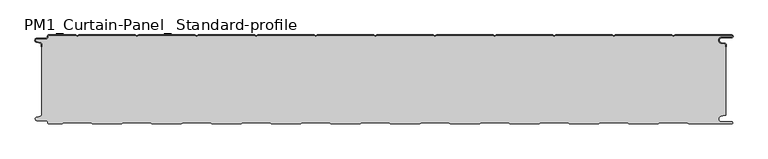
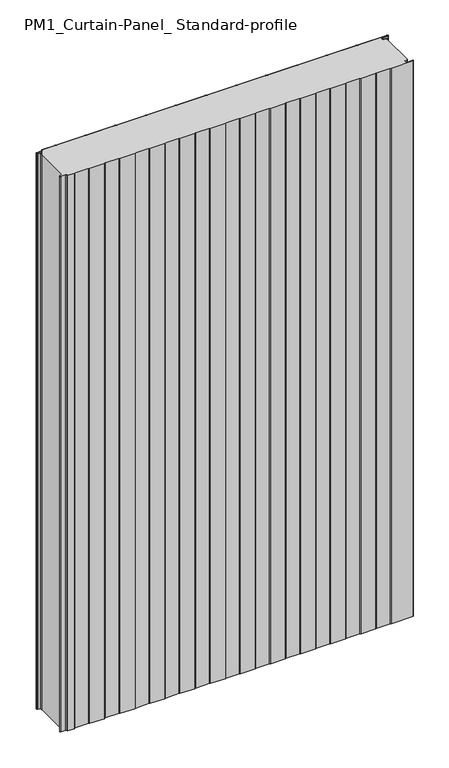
"""IFC4 building model written with IfcOpenShell, lengths in millimetres: plate geometry, PM1_Curtain-Panel_ Standard-profile : ACH_PM1_Acoustic-Sectioning-Panel_150M."""

from ifc_helpers import new_model, si_unit, point, frame, frame_2d, origin, origin_with_axes, place, context, project, spatial, polyline, circle_curve, trimmed, segment, composite_curve, outline, extrude, source, transform, mapped, element, save
from ifc_brep_helpers import plane_surface, cylinder_surface, revolved_surface, advanced_brep


def pm1_curtain_panel_standard_profile_263c61b6(model_context):
    return source(origin(), model_context, "Body", "SolidModel", [
        advanced_brep(
        [(-575.0, -15.878557, 1945.7507136), (-575.0, -20.0, 1945.7507136), (-574.2, -20.0, 1945.7507136), (-574.2, -15.878557, 1945.7507136), (-576.370137, -13.1503208, 1945.7507136), (-582.529863, -11.728236, 1945.7507136), (-581.9, -6.2, 1945.7507136), (-566.4, -6.2, 1945.7507136), (-563.6, -3.4, 1945.7507136), (-563.6, -2.0, 1945.7507136), (-562.4, -0.8, 1945.7507136), (-517.3143588, -0.8, 1945.7507136), (-514.4, -2.482606, 1945.7507136), (-511.4856412, -0.8, 1945.7507136), (-417.3143588, -0.8, 1945.7507136), (-414.4, -2.482606, 1945.7507136), (-411.4856412, -0.8, 1945.7507136), (-317.3143588, -0.8, 1945.7507136), (-314.4, -2.482606, 1945.7507136), (-311.4856412, -0.8, 1945.7507136), (-217.3143588, -0.8, 1945.7507136), (-214.4, -2.482606, 1945.7507136), (-211.4856412, -0.8, 1945.7507136), (-117.3143588, -0.8, 1945.7507136), (-114.4, -2.482606, 1945.7507136), (-111.4856412, -0.8, 1945.7507136), (-17.3143588, -0.8, 1945.7507136), (-14.4, -2.482606, 1945.7507136), (-11.4856412, -0.8, 1945.7507136), (82.6856412, -0.8, 1945.7507136), (85.6, -2.482606, 1945.7507136), (88.5143588, -0.8, 1945.7507136), (182.6856412, -0.8, 1945.7507136), (185.6, -2.482606, 1945.7507136), (188.5143588, -0.8, 1945.7507136), (282.6856412, -0.8, 1945.7507136), (285.6, -2.482606, 1945.7507136), (288.5143588, -0.8, 1945.7507136), (382.6856412, -0.8, 1945.7507136), (385.6, -2.482606, 1945.7507136), (388.5143588, -0.8, 1945.7507136), (482.6856412, -0.8, 1945.7507136), (485.6, -2.482606, 1945.7507136), (488.5143588, -0.8, 1945.7507136), (583.1, -0.8, 1945.7507136), (583.1, -4.2, 1945.7507136), (566.1, -4.2, 1945.7507136), (565.2664884, -13.7270771, 1945.7507136), (571.7125669, -14.8636953, 1945.7507136), (573.2, -16.6363492, 1945.7507136), (573.2, -20.0, 1945.7507136), (574.0, -20.0, 1945.7507136), (574.0, -16.6363492, 1945.7507136), (571.8514855, -14.0758491, 1945.7507136), (565.405407, -12.939231, 1945.7507136), (566.1, -5.0, 1945.7507136), (583.1, -5.0, 1945.7507136), (585.6, -2.5, 1945.7507136), (583.1, 0.0, 1945.7507136), (488.2999995, 0.0, 1945.7507136), (485.6, -1.5588455, 1945.7507136), (482.9000005, 0.0, 1945.7507136), (388.2999995, 0.0, 1945.7507136), (385.6, -1.5588455, 1945.7507136), (382.9000005, 0.0, 1945.7507136), (288.2999995, 0.0, 1945.7507136), (285.6, -1.5588455, 1945.7507136), (282.9000005, 0.0, 1945.7507136), (188.2999995, 0.0, 1945.7507136), (185.6, -1.5588455, 1945.7507136), (182.9000005, 0.0, 1945.7507136), (88.2999995, 0.0, 1945.7507136), (85.6, -1.5588455, 1945.7507136), (82.9000005, 0.0, 1945.7507136), (-11.7000005, 0.0, 1945.7507136), (-14.4, -1.5588455, 1945.7507136), (-17.0999995, 0.0, 1945.7507136), (-111.7000005, 0.0, 1945.7507136), (-114.4, -1.5588455, 1945.7507136), (-117.0999995, 0.0, 1945.7507136), (-211.7000005, 0.0, 1945.7507136), (-214.4, -1.5588455, 1945.7507136), (-217.0999995, 0.0, 1945.7507136), (-311.7000005, 0.0, 1945.7507136), (-314.4, -1.5588455, 1945.7507136), (-317.0999995, 0.0, 1945.7507136), (-411.7000005, 0.0, 1945.7507136), (-414.4, -1.5588455, 1945.7507136), (-417.0999995, 0.0, 1945.7507136), (-511.7000005, 0.0, 1945.7507136), (-514.4, -1.5588455, 1945.7507136), (-517.0999995, 0.0, 1945.7507136), (-562.4, 0.0, 1945.7507136), (-564.4, -2.0, 1945.7507136), (-564.4, -3.4, 1945.7507136), (-566.4, -5.4, 1945.7507136), (-581.9, -5.4, 1945.7507136), (-582.7098239, -12.5077322, 1945.7507136), (-576.5500979, -13.929817, 1945.7507136), (-575.0, -15.878557, 0.0), (-576.5500978, -13.9298169, 0.0), (-582.7098239, -12.507732, 0.0), (-581.9, -5.4, 0.0), (-566.4, -5.4, 0.0), (-564.4, -3.4, 0.0), (-564.4, -2.0, 0.0), (-562.4, 0.0, 0.0), (-517.0999995, 0.0, 0.0), (-514.4, -1.5588455, 0.0), (-511.7000005, 0.0, 0.0), (-417.0999995, 0.0, 0.0), (-414.4, -1.5588455, 0.0), (-411.7000005, 0.0, 0.0), (-317.0999995, 0.0, 0.0), (-314.4, -1.5588455, 0.0), (-311.7000005, 0.0, 0.0), (-217.0999995, 0.0, 0.0), (-214.4, -1.5588455, 0.0), (-211.7000005, 0.0, 0.0), (-117.0999995, 0.0, 0.0), (-114.4, -1.5588455, 0.0), (-111.7000005, 0.0, 0.0), (-17.0999995, 0.0, 0.0), (-14.4, -1.5588455, 0.0), (-11.7000005, 0.0, 0.0), (82.9000005, 0.0, 0.0), (85.6, -1.5588455, 0.0), (88.2999995, 0.0, 0.0), (182.9000005, 0.0, 0.0), (185.6, -1.5588455, 0.0), (188.2999995, 0.0, 0.0), (282.9000005, 0.0, 0.0), (285.6, -1.5588455, 0.0), (288.2999995, 0.0, 0.0), (382.9000005, 0.0, 0.0), (385.6, -1.5588455, 0.0), (388.2999995, 0.0, 0.0), (482.9000005, 0.0, 0.0), (485.6, -1.5588455, 0.0), (488.2999995, 0.0, 0.0), (583.1, 0.0, 0.0), (585.6, -2.5, 0.0), (583.1, -5.0, 0.0), (566.1, -5.0, 0.0), (565.405407, -12.939231, 0.0), (571.8514855, -14.0758491, 0.0), (574.0, -16.6363492, 0.0), (574.0, -20.0, 0.0), (573.2, -20.0, 0.0), (573.2, -16.6363492, 0.0), (571.7125669, -14.8636953, 0.0), (565.2664884, -13.7270772, 0.0), (566.1, -4.2, 0.0), (583.1, -4.2, 0.0), (583.1, -0.8, 0.0), (488.5143588, -0.8, 0.0), (485.6, -2.482606, 0.0), (482.6856412, -0.8, 0.0), (388.5143588, -0.8, 0.0), (385.6, -2.482606, 0.0), (382.6856412, -0.8, 0.0), (288.5143588, -0.8, 0.0), (285.6, -2.482606, 0.0), (282.6856412, -0.8, 0.0), (188.5143588, -0.8, 0.0), (185.6, -2.482606, 0.0), (182.6856412, -0.8, 0.0), (88.5143588, -0.8, 0.0), (85.6, -2.482606, 0.0), (82.6856412, -0.8, 0.0), (-11.4856412, -0.8, 0.0), (-14.4, -2.482606, 0.0), (-17.3143588, -0.8, 0.0), (-111.4856412, -0.8, 0.0), (-114.4, -2.482606, 0.0), (-117.3143588, -0.8, 0.0), (-211.4856412, -0.8, 0.0), (-214.4, -2.482606, 0.0), (-217.3143588, -0.8, 0.0), (-311.4856412, -0.8, 0.0), (-314.4, -2.482606, 0.0), (-317.3143588, -0.8, 0.0), (-411.4856412, -0.8, 0.0), (-414.4, -2.482606, 0.0), (-417.3143588, -0.8, 0.0), (-511.4856412, -0.8, 0.0), (-514.4, -2.482606, 0.0), (-517.3143588, -0.8, 0.0), (-562.4, -0.8, 0.0), (-563.6, -2.0, 0.0), (-563.6, -3.4, 0.0), (-566.4, -6.2, 0.0), (-581.9, -6.2, 0.0), (-582.529863, -11.7282362, 0.0), (-576.370137, -13.150321, 0.0), (-574.2, -15.878557, 0.0), (-574.2, -20.0, 0.0), (-575.0, -20.0, 0.0)],
        [
            (0, 1),
            (1, 2),
            (2, 3),
            (3, 4, circle_curve(frame((-577.0, -15.878557, 1945.7507136), z_axis=(0.0, 0.0, 1.0), x_axis=(1.0, 0.0, 0.0)), 2.8)),
            (4, 5),
            (5, 6, circle_curve(frame((-581.9, -9.0, 1945.7507136), z_axis=(0.0, 0.0, -1.0), x_axis=(1.0, 0.0, 0.0)), 2.8)),
            (6, 7),
            (7, 8, circle_curve(frame((-566.4, -3.4, 1945.7507136), z_axis=(0.0, 0.0, 1.0), x_axis=(1.0, 0.0, 0.0)), 2.8)),
            (8, 9),
            (9, 10, circle_curve(frame((-562.4, -2.0, 1945.7507136), z_axis=(0.0, 0.0, -1.0), x_axis=(1.0, 0.0, 0.0)), 1.2)),
            (10, 11),
            (11, 12),
            (12, 13),
            (13, 14),
            (14, 15),
            (15, 16),
            (16, 17),
            (17, 18),
            (18, 19),
            (19, 20),
            (20, 21),
            (21, 22),
            (22, 23),
            (23, 24),
            (24, 25),
            (25, 26),
            (26, 27),
            (27, 28),
            (28, 29),
            (29, 30),
            (30, 31),
            (31, 32),
            (32, 33),
            (33, 34),
            (34, 35),
            (35, 36),
            (36, 37),
            (37, 38),
            (38, 39),
            (39, 40),
            (40, 41),
            (41, 42),
            (42, 43),
            (43, 44),
            (44, 45, circle_curve(frame((583.1, -2.5, 1945.7507136), z_axis=(0.0, 0.0, -1.0), x_axis=(1.0, 0.0, 0.0)), 1.7)),
            (45, 46),
            (46, 47, circle_curve(frame((566.1, -9.0, 1945.7507136), z_axis=(0.0, 0.0, 1.0), x_axis=(1.0, 0.0, 0.0)), 4.8)),
            (47, 48),
            (48, 49, circle_curve(frame((571.4, -16.6363492, 1945.7507136), z_axis=(0.0, 0.0, -1.0), x_axis=(1.0, 0.0, 0.0)), 1.8)),
            (49, 50),
            (50, 51),
            (51, 52),
            (52, 53, circle_curve(frame((571.4, -16.6363492, 1945.7507136), z_axis=(0.0, 0.0, 1.0), x_axis=(1.0, 0.0, 0.0)), 2.6)),
            (53, 54),
            (54, 55, circle_curve(frame((566.1, -9.0, 1945.7507136), z_axis=(0.0, 0.0, -1.0), x_axis=(1.0, 0.0, 0.0)), 4.0)),
            (55, 56),
            (56, 57, circle_curve(frame((583.1, -2.5, 1945.7507136), z_axis=(0.0, 0.0, 1.0), x_axis=(1.0, 0.0, 0.0)), 2.5)),
            (57, 58, circle_curve(frame((583.1, -2.5, 1945.7507136), z_axis=(0.0, 0.0, 1.0), x_axis=(1.0, 0.0, 0.0)), 2.5)),
            (58, 59),
            (59, 60),
            (60, 61),
            (61, 62),
            (62, 63),
            (63, 64),
            (64, 65),
            (65, 66),
            (66, 67),
            (67, 68),
            (68, 69),
            (69, 70),
            (70, 71),
            (71, 72),
            (72, 73),
            (73, 74),
            (74, 75),
            (75, 76),
            (76, 77),
            (77, 78),
            (78, 79),
            (79, 80),
            (80, 81),
            (81, 82),
            (82, 83),
            (83, 84),
            (84, 85),
            (85, 86),
            (86, 87),
            (87, 88),
            (88, 89),
            (89, 90),
            (90, 91),
            (91, 92),
            (92, 93, circle_curve(frame((-562.4, -2.0, 1945.7507136), z_axis=(0.0, 0.0, 1.0), x_axis=(1.0, 0.0, 0.0)), 2.0)),
            (93, 94),
            (94, 95, circle_curve(frame((-566.4, -3.4, 1945.7507136), z_axis=(0.0, 0.0, -1.0), x_axis=(1.0, 0.0, 0.0)), 2.0)),
            (95, 96),
            (96, 97, circle_curve(frame((-581.9, -9.0, 1945.7507136), z_axis=(0.0, 0.0, 1.0), x_axis=(1.0, 0.0, 0.0)), 3.6)),
            (97, 98),
            (98, 0, circle_curve(frame((-577.0, -15.878557, 1945.7507136), z_axis=(0.0, 0.0, -1.0), x_axis=(1.0, 0.0, 0.0)), 2.0)),
            (99, 100, circle_curve(frame((-577.0, -15.878557, 0.0), z_axis=(0.0, 0.0, 1.0), x_axis=(1.0, 0.0, 0.0)), 2.0)),
            (100, 101),
            (101, 102, circle_curve(frame((-581.9, -9.0, 0.0), z_axis=(0.0, 0.0, -1.0), x_axis=(1.0, 0.0, 0.0)), 3.6)),
            (102, 103),
            (103, 104, circle_curve(frame((-566.4, -3.4, 0.0), z_axis=(0.0, 0.0, 1.0), x_axis=(1.0, 0.0, 0.0)), 2.0)),
            (104, 105),
            (105, 106, circle_curve(frame((-562.4, -2.0, 0.0), z_axis=(0.0, 0.0, -1.0), x_axis=(1.0, 0.0, 0.0)), 2.0)),
            (106, 107),
            (107, 108),
            (108, 109),
            (109, 110),
            (110, 111),
            (111, 112),
            (112, 113),
            (113, 114),
            (114, 115),
            (115, 116),
            (116, 117),
            (117, 118),
            (118, 119),
            (119, 120),
            (120, 121),
            (121, 122),
            (122, 123),
            (123, 124),
            (124, 125),
            (125, 126),
            (126, 127),
            (127, 128),
            (128, 129),
            (129, 130),
            (130, 131),
            (131, 132),
            (132, 133),
            (133, 134),
            (134, 135),
            (135, 136),
            (136, 137),
            (137, 138),
            (138, 139),
            (139, 140),
            (140, 141, circle_curve(frame((583.1, -2.5, 0.0), z_axis=(0.0, 0.0, -1.0), x_axis=(1.0, 0.0, 0.0)), 2.5)),
            (141, 142, circle_curve(frame((583.1, -2.5, 0.0), z_axis=(0.0, 0.0, -1.0), x_axis=(1.0, 0.0, 0.0)), 2.5)),
            (142, 143),
            (143, 144, circle_curve(frame((566.1, -9.0, 0.0), z_axis=(0.0, 0.0, 1.0), x_axis=(1.0, 0.0, 0.0)), 4.0)),
            (144, 145),
            (145, 146, circle_curve(frame((571.4, -16.6363492, 0.0), z_axis=(0.0, 0.0, -1.0), x_axis=(1.0, 0.0, 0.0)), 2.6)),
            (146, 147),
            (147, 148),
            (148, 149),
            (149, 150, circle_curve(frame((571.4, -16.6363492, 0.0), z_axis=(0.0, 0.0, 1.0), x_axis=(1.0, 0.0, 0.0)), 1.8)),
            (150, 151),
            (151, 152, circle_curve(frame((566.1, -9.0, 0.0), z_axis=(0.0, 0.0, -1.0), x_axis=(1.0, 0.0, 0.0)), 4.8)),
            (152, 153),
            (153, 154, circle_curve(frame((583.1, -2.5, 0.0), z_axis=(0.0, 0.0, 1.0), x_axis=(1.0, 0.0, 0.0)), 1.7)),
            (154, 155),
            (155, 156),
            (156, 157),
            (157, 158),
            (158, 159),
            (159, 160),
            (160, 161),
            (161, 162),
            (162, 163),
            (163, 164),
            (164, 165),
            (165, 166),
            (166, 167),
            (167, 168),
            (168, 169),
            (169, 170),
            (170, 171),
            (171, 172),
            (172, 173),
            (173, 174),
            (174, 175),
            (175, 176),
            (176, 177),
            (177, 178),
            (178, 179),
            (179, 180),
            (180, 181),
            (181, 182),
            (182, 183),
            (183, 184),
            (184, 185),
            (185, 186),
            (186, 187),
            (187, 188),
            (188, 189, circle_curve(frame((-562.4, -2.0, 0.0), z_axis=(0.0, 0.0, 1.0), x_axis=(1.0, 0.0, 0.0)), 1.2)),
            (189, 190),
            (190, 191, circle_curve(frame((-566.4, -3.4, 0.0), z_axis=(0.0, 0.0, -1.0), x_axis=(1.0, 0.0, 0.0)), 2.8)),
            (191, 192),
            (192, 193, circle_curve(frame((-581.9, -9.0, 0.0), z_axis=(0.0, 0.0, 1.0), x_axis=(1.0, 0.0, 0.0)), 2.8)),
            (193, 194),
            (194, 195, circle_curve(frame((-577.0, -15.878557, 0.0), z_axis=(0.0, 0.0, -1.0), x_axis=(1.0, 0.0, 0.0)), 2.8)),
            (195, 196),
            (196, 197),
            (197, 99),
            (0, 99),
            (197, 1),
            (196, 2),
            (195, 3),
            (194, 4),
            (193, 5),
            (192, 6),
            (191, 7),
            (190, 8),
            (189, 9),
            (188, 10),
            (187, 11),
            (186, 12),
            (185, 13),
            (184, 14),
            (183, 15),
            (182, 16),
            (181, 17),
            (180, 18),
            (179, 19),
            (178, 20),
            (177, 21),
            (176, 22),
            (175, 23),
            (174, 24),
            (173, 25),
            (172, 26),
            (171, 27),
            (170, 28),
            (169, 29),
            (168, 30),
            (167, 31),
            (166, 32),
            (165, 33),
            (164, 34),
            (163, 35),
            (162, 36),
            (161, 37),
            (160, 38),
            (159, 39),
            (158, 40),
            (157, 41),
            (156, 42),
            (155, 43),
            (154, 44),
            (153, 45),
            (152, 46),
            (151, 47),
            (150, 48),
            (149, 49),
            (148, 50),
            (147, 51),
            (146, 52),
            (145, 53),
            (144, 54),
            (143, 55),
            (142, 56),
            (140, 58),
            (139, 59),
            (138, 60),
            (137, 61),
            (136, 62),
            (135, 63),
            (134, 64),
            (133, 65),
            (132, 66),
            (131, 67),
            (130, 68),
            (129, 69),
            (128, 70),
            (127, 71),
            (126, 72),
            (125, 73),
            (124, 74),
            (123, 75),
            (122, 76),
            (121, 77),
            (120, 78),
            (119, 79),
            (118, 80),
            (117, 81),
            (116, 82),
            (115, 83),
            (114, 84),
            (113, 85),
            (112, 86),
            (111, 87),
            (110, 88),
            (109, 89),
            (108, 90),
            (107, 91),
            (106, 92),
            (105, 93),
            (104, 94),
            (103, 95),
            (102, 96),
            (101, 97),
            (100, 98),
        ],
        [
            plane_surface(frame((-575.0, 0.0, 1945.7507136), z_axis=(0.0, 0.0, 1.0), x_axis=(0.0, 1.0, 0.0))),
            plane_surface(frame((-575.0, 0.0, 0.0), z_axis=(0.0, 0.0, -1.0), x_axis=(0.0, 1.0, 0.0))),
            plane_surface(frame((-575.0, -15.878557, 1945.7507136), z_axis=(-1.0, 0.0, 0.0), x_axis=(0.0, 0.0, -1.0))),
            plane_surface(frame((-575.0, -20.0, 1945.7507136), z_axis=(0.0, -1.0, 0.0), x_axis=(0.0, 0.0, -1.0))),
            plane_surface(frame((-574.2, -20.0, 1945.7507136), z_axis=(1.0, 0.0, 0.0), x_axis=(0.0, 0.0, -1.0))),
            cylinder_surface(frame((-577.0, -15.878557, 1945.7507136), z_axis=(0.0, 0.0, 1.0), x_axis=(1.0, 0.0, 0.0)), 2.8),
            plane_surface(frame((-576.370137, -13.150321, 1945.7507136), z_axis=(0.22495108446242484, 0.9743700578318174, 0.0), x_axis=(0.0, 0.0, -1.0))),
            revolved_surface(polyline([(-579.1, -9.0, 0.0), (-579.1, -9.0, 1945.7507136)]), (-581.9, -9.0, 1945.7507136), (0.0, 0.0, -1.0)),
            plane_surface(frame((-581.9, -6.2, 1945.7507136), z_axis=(0.0, -1.0, 0.0), x_axis=(0.0, 0.0, -1.0))),
            cylinder_surface(frame((-566.4, -3.4, 1945.7507136), z_axis=(0.0, 0.0, 1.0), x_axis=(1.0, 0.0, 0.0)), 2.8),
            plane_surface(frame((-563.6, -3.4, 1945.7507136), z_axis=(1.0, 0.0, 0.0), x_axis=(0.0, 0.0, -1.0))),
            revolved_surface(polyline([(-561.1999999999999, -2.0, 0.0), (-561.1999999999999, -2.0, 1945.7507136)]), (-562.4, -2.0, 1945.7507136), (0.0, 0.0, -1.0)),
            plane_surface(frame((-562.4, -0.8, 1945.7507136), z_axis=(0.0, -1.0, 0.0), x_axis=(0.0, 0.0, -1.0))),
            plane_surface(frame((-517.3143588, -0.8, 1945.7507136), z_axis=(-0.5000000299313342, -0.8660253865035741, 0.0), x_axis=(0.0, 0.0, -1.0))),
            plane_surface(frame((-514.4, -2.482606, 1945.7507136), z_axis=(0.5000000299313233, -0.8660253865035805, 0.0), x_axis=(0.0, 0.0, -1.0))),
            plane_surface(frame((-511.4856412, -0.8, 1945.7507136), z_axis=(0.0, -1.0, 0.0), x_axis=(0.0, 0.0, -1.0))),
            plane_surface(frame((-417.3143588, -0.8, 1945.7507136), z_axis=(-0.5000000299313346, -0.8660253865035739, 0.0), x_axis=(0.0, 0.0, -1.0))),
            plane_surface(frame((-414.4, -2.482606, 1945.7507136), z_axis=(0.5000000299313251, -0.8660253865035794, 0.0), x_axis=(0.0, 0.0, -1.0))),
            plane_surface(frame((-411.4856412, -0.8, 1945.7507136), z_axis=(0.0, -1.0, 0.0), x_axis=(0.0, 0.0, -1.0))),
            plane_surface(frame((-317.3143588, -0.8, 1945.7507136), z_axis=(-0.5000000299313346, -0.866025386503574, 0.0), x_axis=(0.0, 0.0, -1.0))),
            plane_surface(frame((-314.4, -2.482606, 1945.7507136), z_axis=(0.5000000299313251, -0.8660253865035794, 0.0), x_axis=(0.0, 0.0, -1.0))),
            plane_surface(frame((-311.4856412, -0.8, 1945.7507136), z_axis=(0.0, -1.0, 0.0), x_axis=(0.0, 0.0, -1.0))),
            plane_surface(frame((-217.3143588, -0.8, 1945.7507136), z_axis=(-0.5000000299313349, -0.8660253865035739, 0.0), x_axis=(0.0, 0.0, -1.0))),
            plane_surface(frame((-214.4, -2.482606, 1945.7507136), z_axis=(0.5000000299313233, -0.8660253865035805, 0.0), x_axis=(0.0, 0.0, -1.0))),
            plane_surface(frame((-211.4856412, -0.8, 1945.7507136), z_axis=(0.0, -1.0, 0.0), x_axis=(0.0, 0.0, -1.0))),
            plane_surface(frame((-117.3143588, -0.8, 1945.7507136), z_axis=(-0.5000000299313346, -0.866025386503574, 0.0), x_axis=(0.0, 0.0, -1.0))),
            plane_surface(frame((-114.4, -2.482606, 1945.7507136), z_axis=(0.5000000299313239, -0.8660253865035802, 0.0), x_axis=(0.0, 0.0, -1.0))),
            plane_surface(frame((-111.4856412, -0.8, 1945.7507136), z_axis=(0.0, -1.0, 0.0), x_axis=(0.0, 0.0, -1.0))),
            plane_surface(frame((-17.3143588, -0.8, 1945.7507136), z_axis=(-0.5000000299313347, -0.8660253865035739, 0.0), x_axis=(0.0, 0.0, -1.0))),
            plane_surface(frame((-14.4, -2.482606, 1945.7507136), z_axis=(0.5000000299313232, -0.8660253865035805, 0.0), x_axis=(0.0, 0.0, -1.0))),
            plane_surface(frame((-11.4856412, -0.8, 1945.7507136), z_axis=(0.0, -1.0, 0.0), x_axis=(0.0, 0.0, -1.0))),
            plane_surface(frame((82.6856412, -0.8, 1945.7507136), z_axis=(-0.5000000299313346, -0.866025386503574, 0.0), x_axis=(0.0, 0.0, -1.0))),
            plane_surface(frame((85.6, -2.482606, 1945.7507136), z_axis=(0.5000000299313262, -0.8660253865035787, 0.0), x_axis=(0.0, 0.0, -1.0))),
            plane_surface(frame((88.5143588, -0.8, 1945.7507136), z_axis=(0.0, -1.0, 0.0), x_axis=(0.0, 0.0, -1.0))),
            plane_surface(frame((182.6856412, -0.8, 1945.7507136), z_axis=(-0.5000000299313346, -0.8660253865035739, 0.0), x_axis=(0.0, 0.0, -1.0))),
            plane_surface(frame((185.6, -2.482606, 1945.7507136), z_axis=(0.5000000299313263, -0.8660253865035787, 0.0), x_axis=(0.0, 0.0, -1.0))),
            plane_surface(frame((188.5143588, -0.8, 1945.7507136), z_axis=(0.0, -1.0, 0.0), x_axis=(0.0, 0.0, -1.0))),
            plane_surface(frame((282.6856412, -0.8, 1945.7507136), z_axis=(-0.5000000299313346, -0.8660253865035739, 0.0), x_axis=(0.0, 0.0, -1.0))),
            plane_surface(frame((285.6, -2.482606, 1945.7507136), z_axis=(0.5000000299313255, -0.8660253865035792, 0.0), x_axis=(0.0, 0.0, -1.0))),
            plane_surface(frame((288.5143588, -0.8, 1945.7507136), z_axis=(0.0, -1.0, 0.0), x_axis=(0.0, 0.0, -1.0))),
            plane_surface(frame((382.6856412, -0.8, 1945.7507136), z_axis=(-0.5000000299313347, -0.8660253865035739, 0.0), x_axis=(0.0, 0.0, -1.0))),
            plane_surface(frame((385.6, -2.482606, 1945.7507136), z_axis=(0.5000000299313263, -0.8660253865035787, 0.0), x_axis=(0.0, 0.0, -1.0))),
            plane_surface(frame((388.5143588, -0.8, 1945.7507136), z_axis=(0.0, -1.0, 0.0), x_axis=(0.0, 0.0, -1.0))),
            plane_surface(frame((482.6856412, -0.8, 1945.7507136), z_axis=(-0.5000000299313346, -0.866025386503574, 0.0), x_axis=(0.0, 0.0, -1.0))),
            plane_surface(frame((485.6, -2.482606, 1945.7507136), z_axis=(0.5000000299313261, -0.8660253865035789, 0.0), x_axis=(0.0, 0.0, -1.0))),
            plane_surface(frame((535.6, -0.8, 1945.7507136), z_axis=(0.0, -1.0, 0.0), x_axis=(0.0, 0.0, -1.0))),
            revolved_surface(polyline([(584.8000000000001, -2.5, 0.0), (584.8000000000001, -2.5, 1945.7507136)]), (583.1, -2.5, 1945.7507136), (0.0, 0.0, -1.0)),
            plane_surface(frame((583.1, -4.2, 1945.7507136), z_axis=(0.0, 1.0, 0.0), x_axis=(0.0, 0.0, -1.0))),
            cylinder_surface(frame((566.1, -9.0, 1945.7507136), z_axis=(0.0, 0.0, 1.0), x_axis=(1.0, 0.0, 0.0)), 4.8),
            plane_surface(frame((565.2664884, -13.7270772, 1945.7507136), z_axis=(-0.17364825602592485, -0.9848077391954, 0.0), x_axis=(0.0, 0.0, -1.0))),
            revolved_surface(polyline([(573.1999999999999, -16.6363492, 0.0), (573.1999999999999, -16.6363492, 1945.7507136)]), (571.4, -16.6363492, 1945.7507136), (0.0, 0.0, -1.0)),
            plane_surface(frame((573.2, -16.6363492, 1945.7507136), z_axis=(-1.0, 0.0, 0.0), x_axis=(0.0, 0.0, -1.0))),
            plane_surface(frame((573.2, -20.0, 1945.7507136), z_axis=(0.0, -1.0, 0.0), x_axis=(0.0, 0.0, -1.0))),
            plane_surface(frame((574.0, -20.0, 1945.7507136), z_axis=(1.0, 0.0, 0.0), x_axis=(0.0, 0.0, -1.0))),
            cylinder_surface(frame((571.4, -16.6363492, 1945.7507136), z_axis=(0.0, 0.0, 1.0), x_axis=(1.0, 0.0, 0.0)), 2.6),
            plane_surface(frame((571.8514855, -14.0758491, 1945.7507136), z_axis=(0.1736482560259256, 0.9848077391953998, 0.0), x_axis=(0.0, 0.0, -1.0))),
            revolved_surface(polyline([(570.1, -9.0, 0.0), (570.1, -9.0, 1945.7507136)]), (566.1, -9.0, 1945.7507136), (0.0, 0.0, -1.0)),
            plane_surface(frame((566.1, -5.0, 1945.7507136), z_axis=(0.0, -1.0, 0.0), x_axis=(0.0, 0.0, -1.0))),
            cylinder_surface(frame((583.1, -2.5, 1945.7507136), z_axis=(0.0, 0.0, 1.0), x_axis=(1.0, 0.0, 0.0)), 2.5),
            plane_surface(frame((535.6, 0.0, 1945.7507136), z_axis=(0.0, 1.0, 0.0), x_axis=(0.0, 0.0, -1.0))),
            plane_surface(frame((488.2999995, 0.0, 1945.7507136), z_axis=(-0.5000000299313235, 0.8660253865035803, 0.0), x_axis=(0.0, 0.0, -1.0))),
            plane_surface(frame((485.6, -1.5588455, 1945.7507136), z_axis=(0.5000000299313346, 0.8660253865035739, 0.0), x_axis=(0.0, 0.0, -1.0))),
            plane_surface(frame((482.9000005, 0.0, 1945.7507136), z_axis=(0.0, 1.0, 0.0), x_axis=(0.0, 0.0, -1.0))),
            plane_surface(frame((388.2999995, 0.0, 1945.7507136), z_axis=(-0.5000000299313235, 0.8660253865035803, 0.0), x_axis=(0.0, 0.0, -1.0))),
            plane_surface(frame((385.6, -1.5588455, 1945.7507136), z_axis=(0.5000000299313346, 0.8660253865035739, 0.0), x_axis=(0.0, 0.0, -1.0))),
            plane_surface(frame((382.9000005, 0.0, 1945.7507136), z_axis=(0.0, 1.0, 0.0), x_axis=(0.0, 0.0, -1.0))),
            plane_surface(frame((288.2999995, 0.0, 1945.7507136), z_axis=(-0.5000000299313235, 0.8660253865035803, 0.0), x_axis=(0.0, 0.0, -1.0))),
            plane_surface(frame((285.6, -1.5588455, 1945.7507136), z_axis=(0.5000000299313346, 0.8660253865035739, 0.0), x_axis=(0.0, 0.0, -1.0))),
            plane_surface(frame((282.9000005, 0.0, 1945.7507136), z_axis=(0.0, 1.0, 0.0), x_axis=(0.0, 0.0, -1.0))),
            plane_surface(frame((188.2999995, 0.0, 1945.7507136), z_axis=(-0.5000000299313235, 0.8660253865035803, 0.0), x_axis=(0.0, 0.0, -1.0))),
            plane_surface(frame((185.6, -1.5588455, 1945.7507136), z_axis=(0.5000000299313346, 0.8660253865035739, 0.0), x_axis=(0.0, 0.0, -1.0))),
            plane_surface(frame((182.9000005, 0.0, 1945.7507136), z_axis=(0.0, 1.0, 0.0), x_axis=(0.0, 0.0, -1.0))),
            plane_surface(frame((88.2999995, 0.0, 1945.7507136), z_axis=(-0.5000000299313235, 0.8660253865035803, 0.0), x_axis=(0.0, 0.0, -1.0))),
            plane_surface(frame((85.6, -1.5588455, 1945.7507136), z_axis=(0.5000000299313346, 0.8660253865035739, 0.0), x_axis=(0.0, 0.0, -1.0))),
            plane_surface(frame((82.9000005, 0.0, 1945.7507136), z_axis=(0.0, 1.0, 0.0), x_axis=(0.0, 0.0, -1.0))),
            plane_surface(frame((-11.7000005, 0.0, 1945.7507136), z_axis=(-0.5000000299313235, 0.8660253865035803, 0.0), x_axis=(0.0, 0.0, -1.0))),
            plane_surface(frame((-14.4, -1.5588455, 1945.7507136), z_axis=(0.5000000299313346, 0.8660253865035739, 0.0), x_axis=(0.0, 0.0, -1.0))),
            plane_surface(frame((-17.0999995, 0.0, 1945.7507136), z_axis=(0.0, 1.0, 0.0), x_axis=(0.0, 0.0, -1.0))),
            plane_surface(frame((-111.7000005, 0.0, 1945.7507136), z_axis=(-0.5000000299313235, 0.8660253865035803, 0.0), x_axis=(0.0, 0.0, -1.0))),
            plane_surface(frame((-114.4, -1.5588455, 1945.7507136), z_axis=(0.5000000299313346, 0.8660253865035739, 0.0), x_axis=(0.0, 0.0, -1.0))),
            plane_surface(frame((-117.0999995, 0.0, 1945.7507136), z_axis=(0.0, 1.0, 0.0), x_axis=(0.0, 0.0, -1.0))),
            plane_surface(frame((-211.7000005, 0.0, 1945.7507136), z_axis=(-0.5000000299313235, 0.8660253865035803, 0.0), x_axis=(0.0, 0.0, -1.0))),
            plane_surface(frame((-214.4, -1.5588455, 1945.7507136), z_axis=(0.5000000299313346, 0.8660253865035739, 0.0), x_axis=(0.0, 0.0, -1.0))),
            plane_surface(frame((-217.0999995, 0.0, 1945.7507136), z_axis=(0.0, 1.0, 0.0), x_axis=(0.0, 0.0, -1.0))),
            plane_surface(frame((-311.7000005, 0.0, 1945.7507136), z_axis=(-0.5000000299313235, 0.8660253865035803, 0.0), x_axis=(0.0, 0.0, -1.0))),
            plane_surface(frame((-314.4, -1.5588455, 1945.7507136), z_axis=(0.5000000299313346, 0.8660253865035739, 0.0), x_axis=(0.0, 0.0, -1.0))),
            plane_surface(frame((-317.0999995, 0.0, 1945.7507136), z_axis=(0.0, 1.0, 0.0), x_axis=(0.0, 0.0, -1.0))),
            plane_surface(frame((-411.7000005, 0.0, 1945.7507136), z_axis=(-0.5000000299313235, 0.8660253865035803, 0.0), x_axis=(0.0, 0.0, -1.0))),
            plane_surface(frame((-414.4, -1.5588455, 1945.7507136), z_axis=(0.5000000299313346, 0.8660253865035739, 0.0), x_axis=(0.0, 0.0, -1.0))),
            plane_surface(frame((-417.0999995, 0.0, 1945.7507136), z_axis=(0.0, 1.0, 0.0), x_axis=(0.0, 0.0, -1.0))),
            plane_surface(frame((-511.7000005, 0.0, 1945.7507136), z_axis=(-0.5000000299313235, 0.8660253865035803, 0.0), x_axis=(0.0, 0.0, -1.0))),
            plane_surface(frame((-514.4, -1.5588455, 1945.7507136), z_axis=(0.5000000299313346, 0.8660253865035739, 0.0), x_axis=(0.0, 0.0, -1.0))),
            plane_surface(frame((-517.0999995, 0.0, 1945.7507136), z_axis=(0.0, 1.0, 0.0), x_axis=(0.0, 0.0, -1.0))),
            cylinder_surface(frame((-562.4, -2.0, 1945.7507136), z_axis=(0.0, 0.0, 1.0), x_axis=(1.0, 0.0, 0.0)), 2.0),
            plane_surface(frame((-564.4, -2.0, 1945.7507136), z_axis=(-1.0, 0.0, 0.0), x_axis=(0.0, 0.0, -1.0))),
            revolved_surface(polyline([(-564.4, -3.4, 0.0), (-564.4, -3.4, 1945.7507136)]), (-566.4, -3.4, 1945.7507136), (0.0, 0.0, -1.0)),
            plane_surface(frame((-566.4, -5.4, 1945.7507136), z_axis=(0.0, 1.0, 0.0), x_axis=(0.0, 0.0, -1.0))),
            cylinder_surface(frame((-581.9, -9.0, 1945.7507136), z_axis=(0.0, 0.0, 1.0), x_axis=(1.0, 0.0, 0.0)), 3.6),
            plane_surface(frame((-582.7098239, -12.507732, 1945.7507136), z_axis=(-0.22495108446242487, -0.9743700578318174, 0.0), x_axis=(0.0, 0.0, -1.0))),
            revolved_surface(polyline([(-575.0, -15.878557, 0.0), (-575.0, -15.878557, 1945.7507136)]), (-577.0, -15.878557, 1945.7507136), (0.0, 0.0, -1.0)),
        ],
        [
            (0, [[1, 2, 3, 4, 5, 6, 7, 8, 9, 10, 11, 12, 13, 14, 15, 16, 17, 18, 19, 20, 21, 22, 23, 24, 25, 26, 27, 28, 29, 30, 31, 32, 33, 34, 35, 36, 37, 38, 39, 40, 41, 42, 43, 44, 45, 46, 47, 48, 49, 50, 51, 52, 53, 54, 55, 56, 57, 58, 59, 60, 61, 62, 63, 64, 65, 66, 67, 68, 69, 70, 71, 72, 73, 74, 75, 76, 77, 78, 79, 80, 81, 82, 83, 84, 85, 86, 87, 88, 89, 90, 91, 92, 93, 94, 95, 96, 97, 98, 99]]),
            (1, [[100, 101, 102, 103, 104, 105, 106, 107, 108, 109, 110, 111, 112, 113, 114, 115, 116, 117, 118, 119, 120, 121, 122, 123, 124, 125, 126, 127, 128, 129, 130, 131, 132, 133, 134, 135, 136, 137, 138, 139, 140, 141, 142, 143, 144, 145, 146, 147, 148, 149, 150, 151, 152, 153, 154, 155, 156, 157, 158, 159, 160, 161, 162, 163, 164, 165, 166, 167, 168, 169, 170, 171, 172, 173, 174, 175, 176, 177, 178, 179, 180, 181, 182, 183, 184, 185, 186, 187, 188, 189, 190, 191, 192, 193, 194, 195, 196, 197, 198]]),
            (2, [[-1, 199, -198, 200]]),
            (3, [[-2, -200, -197, 201]]),
            (4, [[-3, -201, -196, 202]]),
            (5, [[-4, -202, -195, 203]]),
            (6, [[-5, -203, -194, 204]]),
            (7, [[-6, -204, -193, 205]]),
            (8, [[-7, -205, -192, 206]]),
            (9, [[-8, -206, -191, 207]]),
            (10, [[-9, -207, -190, 208]]),
            (11, [[-10, -208, -189, 209]]),
            (12, [[-11, -209, -188, 210]]),
            (13, [[-12, -210, -187, 211]]),
            (14, [[-13, -211, -186, 212]]),
            (15, [[-14, -212, -185, 213]]),
            (16, [[-15, -213, -184, 214]]),
            (17, [[-16, -214, -183, 215]]),
            (18, [[-17, -215, -182, 216]]),
            (19, [[-18, -216, -181, 217]]),
            (20, [[-19, -217, -180, 218]]),
            (21, [[-20, -218, -179, 219]]),
            (22, [[-21, -219, -178, 220]]),
            (23, [[-22, -220, -177, 221]]),
            (24, [[-23, -221, -176, 222]]),
            (25, [[-24, -222, -175, 223]]),
            (26, [[-25, -223, -174, 224]]),
            (27, [[-26, -224, -173, 225]]),
            (28, [[-27, -225, -172, 226]]),
            (29, [[-28, -226, -171, 227]]),
            (30, [[-29, -227, -170, 228]]),
            (31, [[-30, -228, -169, 229]]),
            (32, [[-31, -229, -168, 230]]),
            (33, [[-32, -230, -167, 231]]),
            (34, [[-33, -231, -166, 232]]),
            (35, [[-34, -232, -165, 233]]),
            (36, [[-35, -233, -164, 234]]),
            (37, [[-36, -234, -163, 235]]),
            (38, [[-37, -235, -162, 236]]),
            (39, [[-38, -236, -161, 237]]),
            (40, [[-39, -237, -160, 238]]),
            (41, [[-40, -238, -159, 239]]),
            (42, [[-41, -239, -158, 240]]),
            (43, [[-42, -240, -157, 241]]),
            (44, [[-43, -241, -156, 242]]),
            (45, [[-44, -242, -155, 243]]),
            (46, [[-45, -243, -154, 244]]),
            (47, [[-46, -244, -153, 245]]),
            (48, [[-47, -245, -152, 246]]),
            (49, [[-48, -246, -151, 247]]),
            (50, [[-49, -247, -150, 248]]),
            (51, [[-50, -248, -149, 249]]),
            (52, [[-51, -249, -148, 250]]),
            (53, [[-52, -250, -147, 251]]),
            (54, [[-53, -251, -146, 252]]),
            (55, [[-54, -252, -145, 253]]),
            (56, [[-55, -253, -144, 254]]),
            (57, [[-56, -254, -143, 255]]),
            (58, [[-255, -142, -141, 256, -58, -57]]),
            (59, [[-59, -256, -140, 257]]),
            (60, [[-60, -257, -139, 258]]),
            (61, [[-61, -258, -138, 259]]),
            (62, [[-62, -259, -137, 260]]),
            (63, [[-63, -260, -136, 261]]),
            (64, [[-64, -261, -135, 262]]),
            (65, [[-65, -262, -134, 263]]),
            (66, [[-66, -263, -133, 264]]),
            (67, [[-67, -264, -132, 265]]),
            (68, [[-68, -265, -131, 266]]),
            (69, [[-69, -266, -130, 267]]),
            (70, [[-70, -267, -129, 268]]),
            (71, [[-71, -268, -128, 269]]),
            (72, [[-72, -269, -127, 270]]),
            (73, [[-73, -270, -126, 271]]),
            (74, [[-74, -271, -125, 272]]),
            (75, [[-75, -272, -124, 273]]),
            (76, [[-76, -273, -123, 274]]),
            (77, [[-77, -274, -122, 275]]),
            (78, [[-78, -275, -121, 276]]),
            (79, [[-79, -276, -120, 277]]),
            (80, [[-80, -277, -119, 278]]),
            (81, [[-81, -278, -118, 279]]),
            (82, [[-82, -279, -117, 280]]),
            (83, [[-83, -280, -116, 281]]),
            (84, [[-84, -281, -115, 282]]),
            (85, [[-85, -282, -114, 283]]),
            (86, [[-86, -283, -113, 284]]),
            (87, [[-87, -284, -112, 285]]),
            (88, [[-88, -285, -111, 286]]),
            (89, [[-89, -286, -110, 287]]),
            (90, [[-90, -287, -109, 288]]),
            (91, [[-91, -288, -108, 289]]),
            (92, [[-92, -289, -107, 290]]),
            (93, [[-93, -290, -106, 291]]),
            (94, [[-94, -291, -105, 292]]),
            (95, [[-95, -292, -104, 293]]),
            (96, [[-96, -293, -103, 294]]),
            (97, [[-97, -294, -102, 295]]),
            (98, [[-98, -295, -101, 296]]),
            (99, [[-99, -296, -100, -199]]),
        ],
    ),
        extrude(outline(composite_curve([segment(polyline([(-574.2, -134.121443), (-574.2, -15.8785573)]), True, "CONTINUOUS"), segment(trimmed(circle_curve(frame_2d((-577.0, -15.8785573)), 2.8), [point((-574.2, -15.8785573))], [point((-576.370137, -13.1503212))], True, "CARTESIAN"), True, "CONTINUOUS"), segment(polyline([(-576.370137, -13.1503212), (-582.5298631, -11.7282362)]), True, "CONTINUOUS"), segment(trimmed(circle_curve(frame_2d((-581.9, -9.0)), 2.8), [point((-582.5298631, -11.7282362))], [point((-581.9, -6.2))], False, "CARTESIAN"), True, "CONTINUOUS"), segment(polyline([(-581.9, -6.2), (-566.4000001, -6.2)]), True, "CONTINUOUS"), segment(trimmed(circle_curve(frame_2d((-566.4000001, -3.4)), 2.8), [point((-566.4000001, -6.2))], [point((-563.6000001, -3.4))], True, "CARTESIAN"), True, "CONTINUOUS"), segment(polyline([(-563.6000001, -3.4), (-563.6000001, -2.0)]), True, "CONTINUOUS"), segment(trimmed(circle_curve(frame_2d((-562.4000001, -2.0)), 1.2), [point((-563.6000001, -2.0))], [point((-562.4000001, -0.8))], False, "CARTESIAN"), True, "CONTINUOUS"), segment(polyline([(-562.4000001, -0.8), (-517.3143589, -0.8), (-514.4000001, -2.482606), (-511.4856412, -0.8), (-417.3143589, -0.8), (-414.4000001, -2.482606), (-411.4856412, -0.8), (-317.3143589, -0.8), (-314.4000001, -2.482606), (-311.4856412, -0.8), (-217.3143589, -0.8), (-214.4000001, -2.482606), (-211.4856412, -0.8), (-117.3143589, -0.8), (-114.4000001, -2.482606), (-111.4856412, -0.8), (-17.3143589, -0.8), (-14.4000001, -2.482606), (-11.4856412, -0.8), (82.6856411, -0.8), (85.5999999, -2.482606), (88.5143588, -0.8), (182.6856411, -0.8), (185.5999999, -2.482606), (188.5143588, -0.8), (282.6856411, -0.8), (285.5999999, -2.482606), (288.5143588, -0.8), (382.6856411, -0.8), (385.5999999, -2.482606), (388.5143588, -0.8), (482.6856411, -0.8), (485.6, -2.482606), (488.5143588, -0.8), (583.1, -0.8)]), True, "CONTINUOUS"), segment(trimmed(circle_curve(frame_2d((583.1, -2.5)), 1.7), [point((583.1, -0.8))], [point((583.1, -4.2))], False, "CARTESIAN"), True, "CONTINUOUS"), segment(polyline([(583.1, -4.2), (566.1, -4.2)]), True, "CONTINUOUS"), segment(trimmed(circle_curve(frame_2d((566.1, -9.0)), 4.8), [point((566.1, -4.2))], [point((565.2664883, -13.7270771))], True, "CARTESIAN"), True, "CONTINUOUS"), segment(polyline([(565.2664883, -13.7270771), (571.7125668, -14.8636953)]), True, "CONTINUOUS"), segment(trimmed(circle_curve(frame_2d((571.4, -16.6363492)), 1.8), [point((571.7125668, -14.8636953))], [point((573.2, -16.6363492))], False, "CARTESIAN"), True, "CONTINUOUS"), segment(polyline([(573.2, -16.6363492), (573.2, -133.363652)]), True, "CONTINUOUS"), segment(trimmed(circle_curve(frame_2d((571.4, -133.363652)), 1.8), [point((573.2, -133.363652))], [point((571.7125666, -135.1363059))], False, "CARTESIAN"), True, "CONTINUOUS"), segment(polyline([(571.7125666, -135.1363059), (565.266489, -136.272923)]), True, "CONTINUOUS"), segment(trimmed(circle_curve(frame_2d((566.1, -141.0000002)), 4.7999999), [point((565.266489, -136.272923))], [point((566.1, -145.8000001))], True, "CARTESIAN"), True, "CONTINUOUS"), segment(polyline([(566.1, -145.8000001), (583.1, -145.8000001)]), True, "CONTINUOUS"), segment(trimmed(circle_curve(frame_2d((583.1, -147.5)), 1.7), [point((583.1, -145.8000001))], [point((583.1, -149.2))], False, "CARTESIAN"), True, "CONTINUOUS"), segment(polyline([(583.1, -149.2), (510.8105122, -149.2), (508.2124346, -147.7), (462.9837184, -147.7), (460.3856408, -149.2), (410.8105122, -149.2), (408.2124346, -147.7), (362.9837184, -147.7), (360.3856408, -149.2), (310.8105122, -149.2), (308.2124346, -147.7), (262.9837184, -147.7), (260.3856408, -149.2), (210.8105122, -149.2), (208.2124346, -147.7), (162.9837184, -147.7), (160.3856408, -149.2), (110.8105122, -149.2), (108.2124346, -147.7), (62.9837184, -147.7), (60.3856408, -149.2), (10.8105122, -149.2), (8.2124346, -147.7), (-37.0162816, -147.7), (-39.6143592, -149.2), (-89.1894878, -149.2), (-91.7875654, -147.7), (-137.0162816, -147.7), (-139.6143592, -149.2), (-189.1894878, -149.2), (-191.7875654, -147.7), (-237.0162816, -147.7), (-239.6143592, -149.2), (-289.1894878, -149.2), (-291.7875654, -147.7), (-337.0162816, -147.7), (-339.6143592, -149.2), (-389.1894878, -149.2), (-391.7875654, -147.7), (-437.0162816, -147.7), (-439.6143592, -149.2), (-489.1894878, -149.2), (-491.7875654, -147.7), (-537.0162816, -147.7), (-539.6143592, -149.2), (-562.4, -149.2)]), True, "CONTINUOUS"), segment(trimmed(circle_curve(frame_2d((-562.4, -148.0)), 1.2), [point((-562.4, -149.2))], [point((-563.6, -148.0))], False, "CARTESIAN"), True, "CONTINUOUS"), segment(polyline([(-563.6, -148.0), (-563.6, -146.5999998)]), True, "CONTINUOUS"), segment(trimmed(circle_curve(frame_2d((-566.4, -146.5999998)), 2.8), [point((-563.6, -146.5999998))], [point((-566.4, -143.7999998))], True, "CARTESIAN"), True, "CONTINUOUS"), segment(polyline([(-566.4, -143.7999998), (-581.9, -143.7999998)]), True, "CONTINUOUS"), segment(trimmed(circle_curve(frame_2d((-581.9, -141.0)), 2.7999998), [point((-581.9, -143.7999998))], [point((-582.529863, -138.271764))], False, "CARTESIAN"), True, "CONTINUOUS"), segment(polyline([(-582.529863, -138.271764), (-576.370137, -136.8496792)]), True, "CONTINUOUS"), segment(trimmed(circle_curve(frame_2d((-577.0, -134.121443)), 2.8), [point((-576.370137, -136.8496792))], [point((-574.2, -134.121443))], True, "CARTESIAN"), True, "CONTINUOUS")], self_intersect=False)), origin_with_axes(), (0.0, 0.0, 1.0), 1945.7507136),
    ])


if __name__ == "__main__":
    model = new_model("IFC4")
    model_context = context("Model", 3, world=origin())
    ifc_project = project(units=[si_unit("LENGTHUNIT", "METRE", prefix="MILLI")], contexts=[model_context])
    site = spatial("IfcSite", under=ifc_project)
    building = spatial("IfcBuilding", under=site)
    placement = place(None, origin())
    pm1_curtain_panel_standard_profile_shape = pm1_curtain_panel_standard_profile_263c61b6(model_context)
    element("IfcPlate", 1, ObjectType="PM1_Curtain-Panel_ Standard-profile : ACH_PM1_Acoustic-Sectioning-Panel_150M", at=placement, inside=building, context=model_context, shape_type="MappedRepresentation", body=[
        mapped(pm1_curtain_panel_standard_profile_shape, transform((0.0, 0.0, 0.0), x_axis=(1.0, 0.0, 0.0), y_axis=(0.0, 1.0, 0.0), z_axis=(0.0, 0.0, 1.0))),
    ])
    save(model, "model.ifc")
